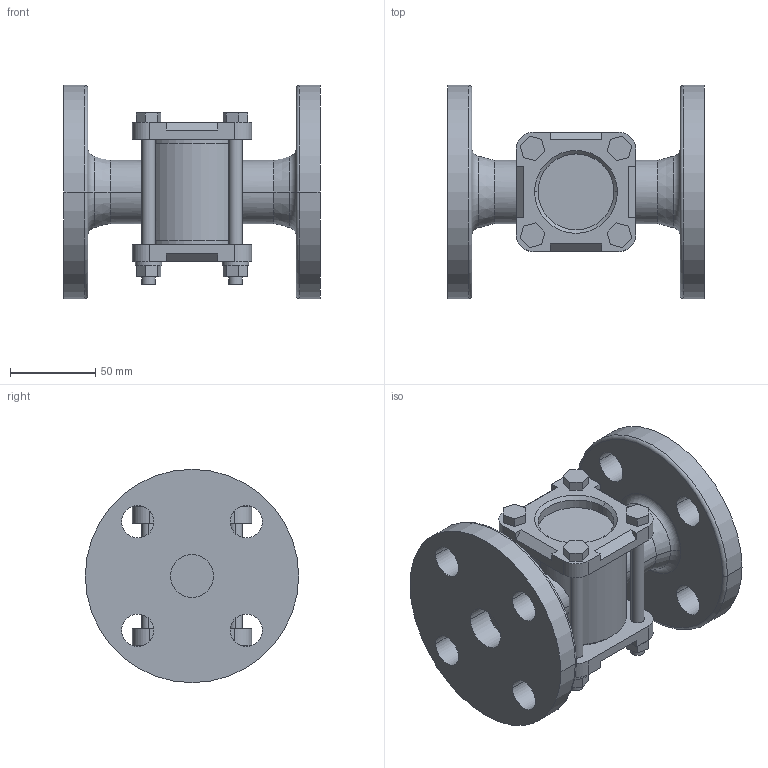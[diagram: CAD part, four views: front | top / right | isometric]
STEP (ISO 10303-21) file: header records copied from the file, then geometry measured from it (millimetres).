
FILE_DESCRIPTION (( 'STEP AP203' ), '1' );
FILE_NAME ('SF-1F 25A.STEP', '2024-09-05T07:57:58', ( '' ), ( '' ), 'SwSTEP 2.0', 'SolidWorks 2024', '' );
FILE_SCHEMA (( 'CONFIG_CONTROL_DESIGN' ));
Length unit declared in the file: millimetre
Products named in the file (1): SF-1F 25A
Bounding box: 150 x 125 x 125 mm (x, y, z)
Volume: 632391 mm3; surface area: 109104.6 mm2
Topology: 1 solids, 1 shells, 196 faces, 488 edges, 320 vertices
Faces by surface type: plane 110, cylinder 70, torus 8, cone 8
Entity records: 6173 total; most frequent: CARTESIAN_POINT 1225, DIRECTION 1034, ORIENTED_EDGE 976, EDGE_CURVE 488, AXIS2_PLACEMENT_3D 357, LINE 320, VECTOR 320, VERTEX_POINT 320
